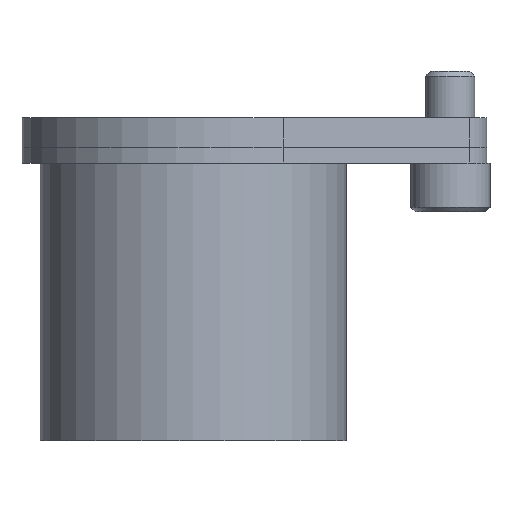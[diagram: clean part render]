
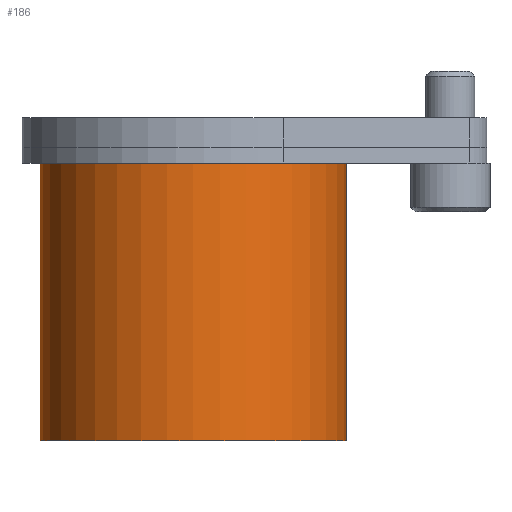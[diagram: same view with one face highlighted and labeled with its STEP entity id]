
A CAD part, front view. The second image highlights one B-rep face of the part: STEP entity #186.
In plain terms, the highlighted cylindrical face has radius 25 mm (diameter 50 mm), a partial arc.
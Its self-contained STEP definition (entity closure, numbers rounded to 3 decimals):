
#186=ADVANCED_FACE('',(#251),#221,.T.);
#221=CYLINDRICAL_SURFACE('',#1031,25.);
#251=FACE_OUTER_BOUND('',#309,.T.);
#309=EDGE_LOOP('',(#605,#606,#607,#608));
#365=LINE('',#1512,#425);
#366=LINE('',#1516,#426);
#425=VECTOR('',#1251,1.);
#426=VECTOR('',#1254,1.);
#605=ORIENTED_EDGE('',*,*,#851,.T.);
#606=ORIENTED_EDGE('',*,*,#852,.F.);
#607=ORIENTED_EDGE('',*,*,#853,.F.);
#608=ORIENTED_EDGE('',*,*,#848,.T.);
#745=VERTEX_POINT('',#1505);
#746=VERTEX_POINT('',#1507);
#747=VERTEX_POINT('',#1513);
#748=VERTEX_POINT('',#1515);
#848=EDGE_CURVE('',#746,#745,#937,.T.);
#851=EDGE_CURVE('',#745,#747,#365,.T.);
#852=EDGE_CURVE('',#748,#747,#939,.T.);
#853=EDGE_CURVE('',#746,#748,#366,.T.);
#937=CIRCLE('',#1026,25.);
#939=CIRCLE('',#1030,25.);
#1026=AXIS2_PLACEMENT_3D('',#1506,#1242,#1243);
#1030=AXIS2_PLACEMENT_3D('',#1514,#1252,#1253);
#1031=AXIS2_PLACEMENT_3D('',#1517,#1255,#1256);
#1242=DIRECTION('',(0.,0.,-1.));
#1243=DIRECTION('',(0.,1.,0.));
#1251=DIRECTION('',(0.,0.,-1.));
#1252=DIRECTION('',(0.,0.,-1.));
#1253=DIRECTION('',(0.,1.,0.));
#1254=DIRECTION('',(0.,0.,-1.));
#1255=DIRECTION('',(0.,0.,-1.));
#1256=DIRECTION('',(0.,-1.,0.));
#1505=CARTESIAN_POINT('',(-25.,0.,-7.4));
#1506=CARTESIAN_POINT('',(0.,0.,-7.4));
#1507=CARTESIAN_POINT('',(25.,0.,-7.4));
#1512=CARTESIAN_POINT('',(-25.,0.,-7.4));
#1513=CARTESIAN_POINT('',(-25.,0.,-52.8));
#1514=CARTESIAN_POINT('',(0.,0.,-52.8));
#1515=CARTESIAN_POINT('',(25.,0.,-52.8));
#1516=CARTESIAN_POINT('',(25.,0.,-7.4));
#1517=CARTESIAN_POINT('',(0.,0.,-7.4));
